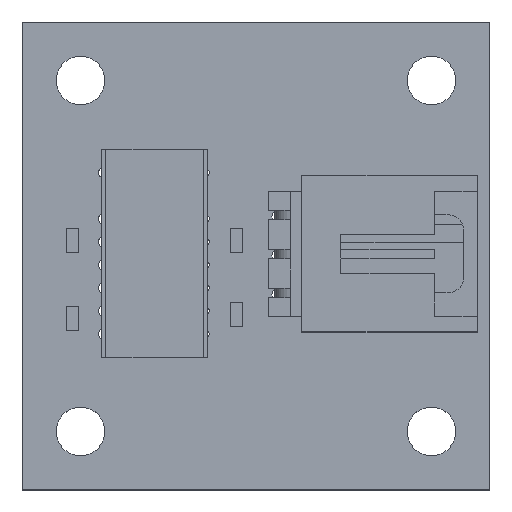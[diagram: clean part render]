
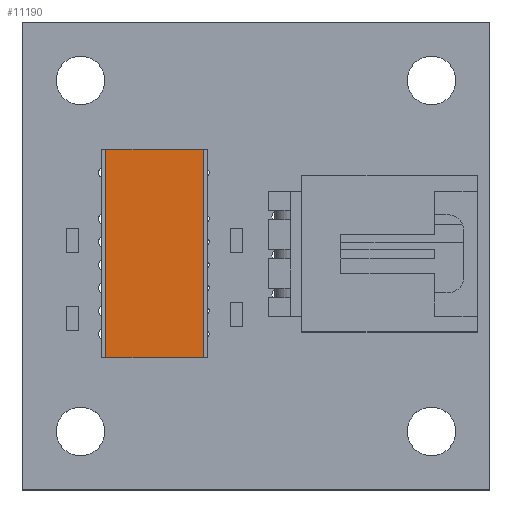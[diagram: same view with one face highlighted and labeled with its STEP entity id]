
A CAD part, top view. The second image highlights one B-rep face of the part: STEP entity #11190.
In plain terms, the highlighted planar face has unit normal (0, 0, 1).
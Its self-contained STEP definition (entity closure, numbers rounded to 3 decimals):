
#10876 = VERTEX_POINT('',#10877);
#10877 = CARTESIAN_POINT('',(-3.175,6.795,7.874));
#10884 = PLANE('',#10885);
#10885 = AXIS2_PLACEMENT_3D('',#10886,#10887,#10888);
#10886 = CARTESIAN_POINT('',(-3.175,6.795,0.));
#10887 = DIRECTION('',(0.,1.,0.));
#10888 = DIRECTION('',(1.,0.,0.));
#10896 = PLANE('',#10897);
#10897 = AXIS2_PLACEMENT_3D('',#10898,#10899,#10900);
#10898 = CARTESIAN_POINT('',(-3.175,-6.795,0.));
#10899 = DIRECTION('',(-1.,0.,0.));
#10900 = DIRECTION('',(0.,1.,0.));
#10908 = EDGE_CURVE('',#10876,#10909,#10911,.T.);
#10909 = VERTEX_POINT('',#10910);
#10910 = CARTESIAN_POINT('',(3.175,6.795,7.874));
#10911 = SURFACE_CURVE('',#10912,(#10916,#10923),.PCURVE_S1.);
#10912 = LINE('',#10913,#10914);
#10913 = CARTESIAN_POINT('',(-3.175,6.795,7.874));
#10914 = VECTOR('',#10915,1.);
#10915 = DIRECTION('',(1.,0.,0.));
#10916 = PCURVE('',#10884,#10917);
#10917 = DEFINITIONAL_REPRESENTATION('',(#10918),#10922);
#10918 = LINE('',#10919,#10920);
#10919 = CARTESIAN_POINT('',(0.,-7.874));
#10920 = VECTOR('',#10921,1.);
#10921 = DIRECTION('',(1.,0.));
#10922 = ( GEOMETRIC_REPRESENTATION_CONTEXT(2) 
PARAMETRIC_REPRESENTATION_CONTEXT() REPRESENTATION_CONTEXT('2D SPACE',''
  ) );
#10923 = PCURVE('',#10924,#10929);
#10924 = PLANE('',#10925);
#10925 = AXIS2_PLACEMENT_3D('',#10926,#10927,#10928);
#10926 = CARTESIAN_POINT('',(-3.175,6.795,7.874));
#10927 = DIRECTION('',(0.,0.,1.));
#10928 = DIRECTION('',(1.,0.,0.));
#10929 = DEFINITIONAL_REPRESENTATION('',(#10930),#10934);
#10930 = LINE('',#10931,#10932);
#10931 = CARTESIAN_POINT('',(0.,0.));
#10932 = VECTOR('',#10933,1.);
#10933 = DIRECTION('',(1.,0.));
#10934 = ( GEOMETRIC_REPRESENTATION_CONTEXT(2) 
PARAMETRIC_REPRESENTATION_CONTEXT() REPRESENTATION_CONTEXT('2D SPACE',''
  ) );
#10952 = PLANE('',#10953);
#10953 = AXIS2_PLACEMENT_3D('',#10954,#10955,#10956);
#10954 = CARTESIAN_POINT('',(3.175,6.795,0.));
#10955 = DIRECTION('',(1.,0.,0.));
#10956 = DIRECTION('',(0.,-1.,0.));
#10994 = EDGE_CURVE('',#10909,#10995,#10997,.T.);
#10995 = VERTEX_POINT('',#10996);
#10996 = CARTESIAN_POINT('',(3.175,-6.795,7.874));
#10997 = SURFACE_CURVE('',#10998,(#11002,#11009),.PCURVE_S1.);
#10998 = LINE('',#10999,#11000);
#10999 = CARTESIAN_POINT('',(3.175,6.795,7.874));
#11000 = VECTOR('',#11001,1.);
#11001 = DIRECTION('',(0.,-1.,0.));
#11002 = PCURVE('',#10952,#11003);
#11003 = DEFINITIONAL_REPRESENTATION('',(#11004),#11008);
#11004 = LINE('',#11005,#11006);
#11005 = CARTESIAN_POINT('',(0.,-7.874));
#11006 = VECTOR('',#11007,1.);
#11007 = DIRECTION('',(1.,0.));
#11008 = ( GEOMETRIC_REPRESENTATION_CONTEXT(2) 
PARAMETRIC_REPRESENTATION_CONTEXT() REPRESENTATION_CONTEXT('2D SPACE',''
  ) );
#11009 = PCURVE('',#10924,#11010);
#11010 = DEFINITIONAL_REPRESENTATION('',(#11011),#11015);
#11011 = LINE('',#11012,#11013);
#11012 = CARTESIAN_POINT('',(6.35,0.));
#11013 = VECTOR('',#11014,1.);
#11014 = DIRECTION('',(0.,-1.));
#11015 = ( GEOMETRIC_REPRESENTATION_CONTEXT(2) 
PARAMETRIC_REPRESENTATION_CONTEXT() REPRESENTATION_CONTEXT('2D SPACE',''
  ) );
#11033 = PLANE('',#11034);
#11034 = AXIS2_PLACEMENT_3D('',#11035,#11036,#11037);
#11035 = CARTESIAN_POINT('',(3.175,-6.795,0.));
#11036 = DIRECTION('',(0.,-1.,0.));
#11037 = DIRECTION('',(-1.,0.,0.));
#11070 = EDGE_CURVE('',#10995,#11071,#11073,.T.);
#11071 = VERTEX_POINT('',#11072);
#11072 = CARTESIAN_POINT('',(-3.175,-6.795,7.874));
#11073 = SURFACE_CURVE('',#11074,(#11078,#11085),.PCURVE_S1.);
#11074 = LINE('',#11075,#11076);
#11075 = CARTESIAN_POINT('',(3.175,-6.795,7.874));
#11076 = VECTOR('',#11077,1.);
#11077 = DIRECTION('',(-1.,0.,0.));
#11078 = PCURVE('',#11033,#11079);
#11079 = DEFINITIONAL_REPRESENTATION('',(#11080),#11084);
#11080 = LINE('',#11081,#11082);
#11081 = CARTESIAN_POINT('',(0.,-7.874));
#11082 = VECTOR('',#11083,1.);
#11083 = DIRECTION('',(1.,0.));
#11084 = ( GEOMETRIC_REPRESENTATION_CONTEXT(2) 
PARAMETRIC_REPRESENTATION_CONTEXT() REPRESENTATION_CONTEXT('2D SPACE',''
  ) );
#11085 = PCURVE('',#10924,#11086);
#11086 = DEFINITIONAL_REPRESENTATION('',(#11087),#11091);
#11087 = LINE('',#11088,#11089);
#11088 = CARTESIAN_POINT('',(6.35,-13.589));
#11089 = VECTOR('',#11090,1.);
#11090 = DIRECTION('',(-1.,0.));
#11091 = ( GEOMETRIC_REPRESENTATION_CONTEXT(2) 
PARAMETRIC_REPRESENTATION_CONTEXT() REPRESENTATION_CONTEXT('2D SPACE',''
  ) );
#11141 = EDGE_CURVE('',#11071,#10876,#11142,.T.);
#11142 = SURFACE_CURVE('',#11143,(#11147,#11154),.PCURVE_S1.);
#11143 = LINE('',#11144,#11145);
#11144 = CARTESIAN_POINT('',(-3.175,-6.795,7.874));
#11145 = VECTOR('',#11146,1.);
#11146 = DIRECTION('',(0.,1.,0.));
#11147 = PCURVE('',#10896,#11148);
#11148 = DEFINITIONAL_REPRESENTATION('',(#11149),#11153);
#11149 = LINE('',#11150,#11151);
#11150 = CARTESIAN_POINT('',(0.,-7.874));
#11151 = VECTOR('',#11152,1.);
#11152 = DIRECTION('',(1.,0.));
#11153 = ( GEOMETRIC_REPRESENTATION_CONTEXT(2) 
PARAMETRIC_REPRESENTATION_CONTEXT() REPRESENTATION_CONTEXT('2D SPACE',''
  ) );
#11154 = PCURVE('',#10924,#11155);
#11155 = DEFINITIONAL_REPRESENTATION('',(#11156),#11160);
#11156 = LINE('',#11157,#11158);
#11157 = CARTESIAN_POINT('',(0.,-13.589));
#11158 = VECTOR('',#11159,1.);
#11159 = DIRECTION('',(0.,1.));
#11160 = ( GEOMETRIC_REPRESENTATION_CONTEXT(2) 
PARAMETRIC_REPRESENTATION_CONTEXT() REPRESENTATION_CONTEXT('2D SPACE',''
  ) );
#11190 = ADVANCED_FACE('',(#11191),#10924,.T.);
#11191 = FACE_BOUND('',#11192,.F.);
#11192 = EDGE_LOOP('',(#11193,#11194,#11195,#11196));
#11193 = ORIENTED_EDGE('',*,*,#10908,.T.);
#11194 = ORIENTED_EDGE('',*,*,#10994,.T.);
#11195 = ORIENTED_EDGE('',*,*,#11070,.T.);
#11196 = ORIENTED_EDGE('',*,*,#11141,.T.);
